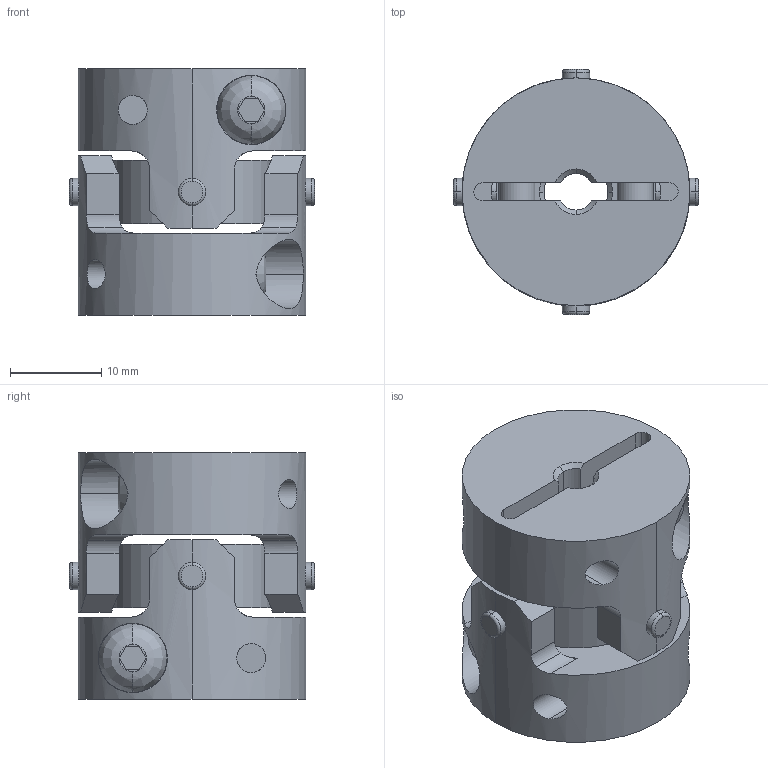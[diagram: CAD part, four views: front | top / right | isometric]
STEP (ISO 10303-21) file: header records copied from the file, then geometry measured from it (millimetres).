
FILE_DESCRIPTION((''),'2;1');
FILE_NAME('UA-25C-4×7.stp','2013-11-12T14:18:08',(''),(''),'AutoCAD STEP 2000i','AutoCAD 2000i',', , ');
FILE_SCHEMA(('CONFIG_CONTROL_DESIGN'));
Length unit declared in the file: millimetre
Products named in the file (6): UA-25C-5×5; 忣兜1; UA-2502-D05-1; BTN-M4; UA-2502-D05; UA25-SEN
Assembly tree (6 placements, depth 3):
  UA-25C-5×5
    忣兜1
    UA-2502-D05-1
      BTN-M4
    UA-2502-D05
      BTN-M4
    UA25-SEN
Bounding box: 26.89 x 26.89 x 27 mm (x, y, z)
Volume: 9400.4 mm3; surface area: 6497.1 mm2
Topology: 1 solids, 1 shells, 206 faces, 554 edges, 364 vertices
Faces by surface type: cylinder 96, plane 78, cone 16, bspline 8, torus 8
Entity records: 8291 total; most frequent: CARTESIAN_POINT 2975, ORIENTED_EDGE 1108, DIRECTION 1064, EDGE_CURVE 554, AXIS2_PLACEMENT_3D 409, VERTEX_POINT 364, VECTOR 246, LINE 246
